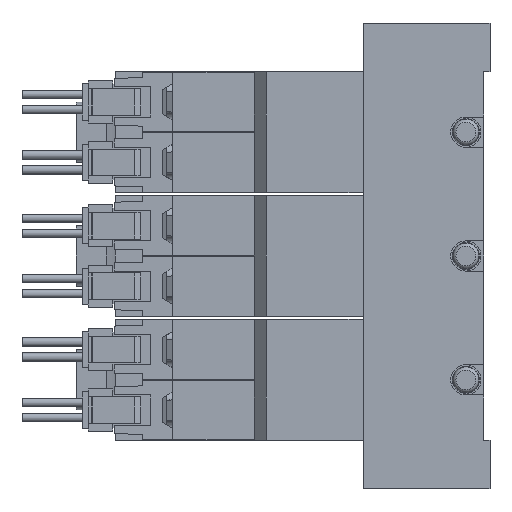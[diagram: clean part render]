
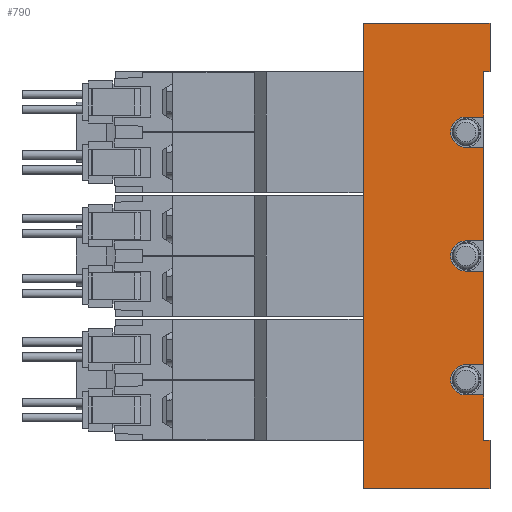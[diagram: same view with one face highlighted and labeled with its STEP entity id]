
A CAD part, left-side view. The second image highlights one B-rep face of the part: STEP entity #790.
In plain terms, the highlighted planar face has unit normal (-1, 0, 0) as drawn and (1, 0, 0) by its records, which use the part's own axes.
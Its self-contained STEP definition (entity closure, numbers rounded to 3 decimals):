
#790=ADVANCED_FACE('',(#1683),#1684,.F.);
#1683=FACE_OUTER_BOUND('',#2615,.T.);
#1684=PLANE('',#2616);
#2615=EDGE_LOOP('',(#5817,#5818,#5819,#5820,#5821,#5822,#5823,#5824,#5825,#5826,#5827,#5828,#5829,#5830,#5831,#5832,#5833,#5834,#5835,#5836));
#2616=AXIS2_PLACEMENT_3D('',#5837,#5838,#5839);
#5817=ORIENTED_EDGE('',*,*,#6911,.T.);
#5818=ORIENTED_EDGE('',*,*,#6996,.T.);
#5819=ORIENTED_EDGE('',*,*,#6997,.F.);
#5820=ORIENTED_EDGE('',*,*,#6998,.F.);
#5821=ORIENTED_EDGE('',*,*,#6926,.T.);
#5822=ORIENTED_EDGE('',*,*,#6918,.T.);
#5823=ORIENTED_EDGE('',*,*,#6964,.T.);
#5824=ORIENTED_EDGE('',*,*,#6967,.F.);
#5825=ORIENTED_EDGE('',*,*,#6999,.F.);
#5826=ORIENTED_EDGE('',*,*,#7000,.F.);
#5827=ORIENTED_EDGE('',*,*,#6961,.T.);
#5828=ORIENTED_EDGE('',*,*,#7001,.F.);
#5829=ORIENTED_EDGE('',*,*,#6930,.F.);
#5830=ORIENTED_EDGE('',*,*,#6984,.F.);
#5831=ORIENTED_EDGE('',*,*,#6957,.T.);
#5832=ORIENTED_EDGE('',*,*,#7002,.F.);
#5833=ORIENTED_EDGE('',*,*,#6982,.F.);
#5834=ORIENTED_EDGE('',*,*,#6950,.F.);
#5835=ORIENTED_EDGE('',*,*,#6955,.T.);
#5836=ORIENTED_EDGE('',*,*,#6899,.T.);
#5837=CARTESIAN_POINT('',(17.5,1.0,38.5));
#5838=DIRECTION('',(-1.0,0.0,0.0));
#5839=DIRECTION('',(0.0,0.0,1.0));
#6899=EDGE_CURVE('',#8546,#8555,#8557,.T.);
#6911=EDGE_CURVE('',#8555,#8578,#8579,.T.);
#6918=EDGE_CURVE('',#8592,#8589,#8593,.T.);
#6926=EDGE_CURVE('',#8606,#8592,#8607,.T.);
#6930=EDGE_CURVE('',#8611,#8613,#8614,.T.);
#6950=EDGE_CURVE('',#8650,#8651,#8652,.T.);
#6955=EDGE_CURVE('',#8650,#8546,#8657,.T.);
#6957=EDGE_CURVE('',#8660,#8658,#8661,.T.);
#6961=EDGE_CURVE('',#8668,#8666,#8669,.T.);
#6964=EDGE_CURVE('',#8589,#8671,#8673,.T.);
#6967=EDGE_CURVE('',#8678,#8671,#8679,.T.);
#6982=EDGE_CURVE('',#8651,#8702,#8703,.T.);
#6984=EDGE_CURVE('',#8660,#8611,#8705,.T.);
#6996=EDGE_CURVE('',#8578,#8726,#8727,.T.);
#6997=EDGE_CURVE('',#8728,#8726,#8729,.T.);
#6998=EDGE_CURVE('',#8606,#8728,#8730,.T.);
#6999=EDGE_CURVE('',#8731,#8678,#8732,.T.);
#7000=EDGE_CURVE('',#8668,#8731,#8733,.T.);
#7001=EDGE_CURVE('',#8613,#8666,#8734,.T.);
#7002=EDGE_CURVE('',#8702,#8658,#8735,.T.);
#8546=VERTEX_POINT('',#11358);
#8555=VERTEX_POINT('',#11371);
#8557=LINE('',#11374,#11375);
#8578=VERTEX_POINT('',#11405);
#8579=LINE('',#11406,#11407);
#8589=VERTEX_POINT('',#11418);
#8592=VERTEX_POINT('',#11422);
#8593=LINE('',#11423,#11424);
#8606=VERTEX_POINT('',#11443);
#8607=LINE('',#11444,#11445);
#8611=VERTEX_POINT('',#11450);
#8613=VERTEX_POINT('',#11453);
#8614=CIRCLE('',#11454,2.5);
#8650=VERTEX_POINT('',#11499);
#8651=VERTEX_POINT('',#11500);
#8652=LINE('',#11501,#11502);
#8657=LINE('',#11510,#11511);
#8658=VERTEX_POINT('',#11512);
#8660=VERTEX_POINT('',#11515);
#8661=LINE('',#11516,#11517);
#8666=VERTEX_POINT('',#11524);
#8668=VERTEX_POINT('',#11527);
#8669=LINE('',#11528,#11529);
#8671=VERTEX_POINT('',#11532);
#8673=LINE('',#11535,#11536);
#8678=VERTEX_POINT('',#11541);
#8679=LINE('',#11542,#11543);
#8702=VERTEX_POINT('',#11570);
#8703=CIRCLE('',#11571,2.5);
#8705=LINE('',#11574,#11575);
#8726=VERTEX_POINT('',#11598);
#8727=LINE('',#11599,#11600);
#8728=VERTEX_POINT('',#11601);
#8729=LINE('',#11602,#11603);
#8730=LINE('',#11604,#11605);
#8731=VERTEX_POINT('',#11606);
#8732=CIRCLE('',#11607,2.5);
#8733=LINE('',#11608,#11609);
#8734=LINE('',#11610,#11611);
#8735=LINE('',#11612,#11613);
#11358=CARTESIAN_POINT('',(17.5,1.0,-30.5));
#11371=CARTESIAN_POINT('',(17.5,0.0,-30.5));
#11374=CARTESIAN_POINT('',(17.5,4.0,-30.5));
#11375=VECTOR('',#12763,1.0);
#11405=CARTESIAN_POINT('',(17.5,0.0,-38.5));
#11406=CARTESIAN_POINT('',(17.5,0.0,-30.5));
#11407=VECTOR('',#12779,1.0);
#11418=CARTESIAN_POINT('',(17.5,1.0,30.5));
#11422=CARTESIAN_POINT('',(17.5,0.0,30.5));
#11423=CARTESIAN_POINT('',(17.5,0.0,30.5));
#11424=VECTOR('',#12794,1.0);
#11443=CARTESIAN_POINT('',(17.5,0.0,38.5));
#11444=CARTESIAN_POINT('',(17.5,0.0,38.5));
#11445=VECTOR('',#12804,1.0);
#11450=CARTESIAN_POINT('',(17.5,4.0,-2.5));
#11453=CARTESIAN_POINT('',(17.5,4.0,2.5));
#11454=AXIS2_PLACEMENT_3D('',#12810,#12811,#12812);
#11499=CARTESIAN_POINT('',(17.5,1.0,-23.0));
#11500=CARTESIAN_POINT('',(17.5,4.0,-23.0));
#11501=CARTESIAN_POINT('',(17.5,1.0,-23.0));
#11502=VECTOR('',#12852,1.0);
#11510=CARTESIAN_POINT('',(17.5,1.0,38.5));
#11511=VECTOR('',#12856,1.0);
#11512=CARTESIAN_POINT('',(17.5,1.0,-18.0));
#11515=CARTESIAN_POINT('',(17.5,1.0,-2.5));
#11516=CARTESIAN_POINT('',(17.5,1.0,38.5));
#11517=VECTOR('',#12858,1.0);
#11524=CARTESIAN_POINT('',(17.5,1.0,2.5));
#11527=CARTESIAN_POINT('',(17.5,1.0,18.0));
#11528=CARTESIAN_POINT('',(17.5,1.0,38.5));
#11529=VECTOR('',#12862,1.0);
#11532=CARTESIAN_POINT('',(17.5,1.0,23.0));
#11535=CARTESIAN_POINT('',(17.5,1.0,38.5));
#11536=VECTOR('',#12865,1.0);
#11541=CARTESIAN_POINT('',(17.5,4.0,23.0));
#11542=CARTESIAN_POINT('',(17.5,1.0,23.0));
#11543=VECTOR('',#12872,1.0);
#11570=CARTESIAN_POINT('',(17.5,4.0,-18.0));
#11571=AXIS2_PLACEMENT_3D('',#12904,#12905,#12906);
#11574=CARTESIAN_POINT('',(17.5,1.0,-2.5));
#11575=VECTOR('',#12908,1.0);
#11598=CARTESIAN_POINT('',(17.5,21.0,-38.5));
#11599=CARTESIAN_POINT('',(17.5,1.0,-38.5));
#11600=VECTOR('',#12938,1.0);
#11601=CARTESIAN_POINT('',(17.5,21.0,38.5));
#11602=CARTESIAN_POINT('',(17.5,21.0,38.5));
#11603=VECTOR('',#12939,1.0);
#11604=CARTESIAN_POINT('',(17.5,1.0,38.5));
#11605=VECTOR('',#12940,1.0);
#11606=CARTESIAN_POINT('',(17.5,4.0,18.0));
#11607=AXIS2_PLACEMENT_3D('',#12941,#12942,#12943);
#11608=CARTESIAN_POINT('',(17.5,1.0,18.0));
#11609=VECTOR('',#12944,1.0);
#11610=CARTESIAN_POINT('',(17.5,1.0,2.5));
#11611=VECTOR('',#12945,1.0);
#11612=CARTESIAN_POINT('',(17.5,1.0,-18.0));
#11613=VECTOR('',#12946,1.0);
#12763=DIRECTION('',(0.0,-1.0,0.0));
#12779=DIRECTION('',(0.0,0.0,-1.0));
#12794=DIRECTION('',(0.0,1.0,0.0));
#12804=DIRECTION('',(0.0,0.0,-1.0));
#12810=CARTESIAN_POINT('',(17.5,4.0,0.0));
#12811=DIRECTION('',(1.0,0.0,-0.0));
#12812=DIRECTION('',(0.0,0.0,1.0));
#12852=DIRECTION('',(0.0,1.0,0.0));
#12856=DIRECTION('',(0.0,0.0,-1.0));
#12858=DIRECTION('',(0.0,0.0,-1.0));
#12862=DIRECTION('',(0.0,0.0,-1.0));
#12865=DIRECTION('',(0.0,0.0,-1.0));
#12872=DIRECTION('',(0.0,-1.0,0.0));
#12904=CARTESIAN_POINT('',(17.5,4.0,-20.5));
#12905=DIRECTION('',(1.0,0.0,-0.0));
#12906=DIRECTION('',(0.0,0.0,1.0));
#12908=DIRECTION('',(0.0,1.0,0.0));
#12938=DIRECTION('',(0.0,1.0,0.0));
#12939=DIRECTION('',(0.0,0.0,-1.0));
#12940=DIRECTION('',(0.0,1.0,0.0));
#12941=CARTESIAN_POINT('',(17.5,4.0,20.5));
#12942=DIRECTION('',(1.0,0.0,-0.0));
#12943=DIRECTION('',(0.0,0.0,1.0));
#12944=DIRECTION('',(0.0,1.0,0.0));
#12945=DIRECTION('',(0.0,-1.0,0.0));
#12946=DIRECTION('',(0.0,-1.0,0.0));
